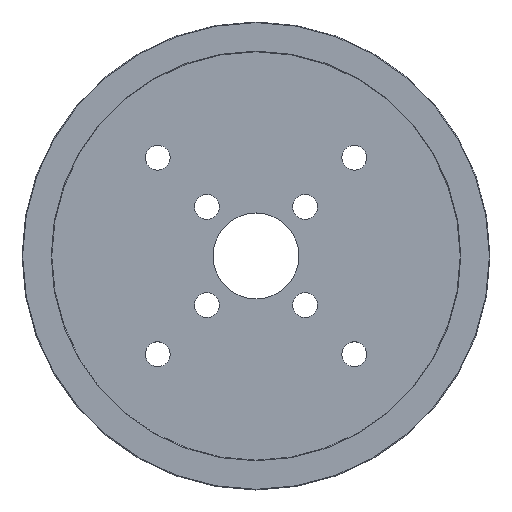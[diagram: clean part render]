
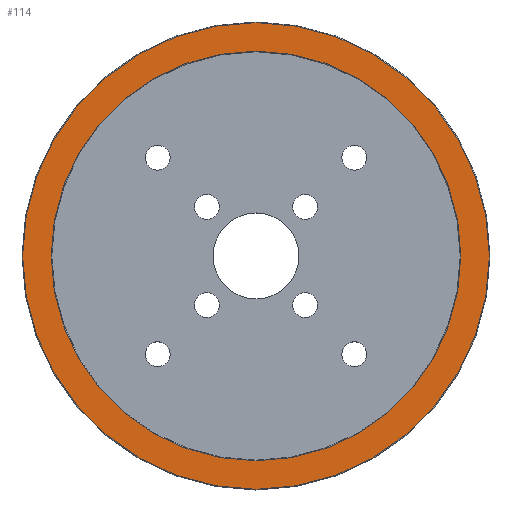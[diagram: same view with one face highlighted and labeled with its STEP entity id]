
A CAD part, top view. The second image highlights one B-rep face of the part: STEP entity #114.
In plain terms, the highlighted planar face has unit normal (0, 0, 1).
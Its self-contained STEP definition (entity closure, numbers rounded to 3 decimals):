
#16 = CARTESIAN_POINT ( 'NONE',  ( 0., 0., 3. ) ) ;
#56 = VERTEX_POINT ( 'NONE', #302 ) ;
#65 = AXIS2_PLACEMENT_3D ( 'NONE', #16, #334, #1363 ) ;
#72 = DIRECTION ( 'NONE',  ( 0., 0., -1. ) ) ;
#114 = ADVANCED_FACE ( 'NONE', ( #1454, #1147 ), #1447, .F. ) ;
#126 = ORIENTED_EDGE ( 'NONE', *, *, #1080, .T. ) ;
#151 = CARTESIAN_POINT ( 'NONE',  ( 0., 0., 3. ) ) ;
#222 = CARTESIAN_POINT ( 'NONE',  ( 0., 0., 3. ) ) ;
#224 = EDGE_CURVE ( 'NONE', #384, #56, #443, .T. ) ;
#244 = CARTESIAN_POINT ( 'NONE',  ( -38., 0., 3. ) ) ;
#278 = CIRCLE ( 'NONE', #906, 38. ) ;
#297 = CIRCLE ( 'NONE', #386, 33.35 ) ;
#302 = CARTESIAN_POINT ( 'NONE',  ( -33.35, 0., 3. ) ) ;
#312 = DIRECTION ( 'NONE',  ( 0., 0., -1. ) ) ;
#327 = ORIENTED_EDGE ( 'NONE', *, *, #224, .T. ) ;
#334 = DIRECTION ( 'NONE',  ( 0., 0., 1. ) ) ;
#371 = DIRECTION ( 'NONE',  ( -1., 0., 0. ) ) ;
#384 = VERTEX_POINT ( 'NONE', #1144 ) ;
#386 = AXIS2_PLACEMENT_3D ( 'NONE', #1039, #1047, #1265 ) ;
#443 = CIRCLE ( 'NONE', #844, 33.35 ) ;
#518 = CARTESIAN_POINT ( 'NONE',  ( 0., 0., 3. ) ) ;
#674 = EDGE_LOOP ( 'NONE', ( #1258, #327 ) ) ;
#756 = DIRECTION ( 'NONE',  ( -1., 0., 0. ) ) ;
#770 = CARTESIAN_POINT ( 'NONE',  ( 38., 0., 3. ) ) ;
#819 = VERTEX_POINT ( 'NONE', #770 ) ;
#830 = CIRCLE ( 'NONE', #65, 38. ) ;
#844 = AXIS2_PLACEMENT_3D ( 'NONE', #222, #312, #1018 ) ;
#906 = AXIS2_PLACEMENT_3D ( 'NONE', #151, #1059, #371 ) ;
#963 = EDGE_CURVE ( 'NONE', #819, #1058, #830, .T. ) ;
#1018 = DIRECTION ( 'NONE',  ( -1., 0., 0. ) ) ;
#1039 = CARTESIAN_POINT ( 'NONE',  ( 0., 0., 3. ) ) ;
#1047 = DIRECTION ( 'NONE',  ( 0., 0., -1. ) ) ;
#1058 = VERTEX_POINT ( 'NONE', #244 ) ;
#1059 = DIRECTION ( 'NONE',  ( 0., 0., 1. ) ) ;
#1080 = EDGE_CURVE ( 'NONE', #1058, #819, #278, .T. ) ;
#1105 = EDGE_LOOP ( 'NONE', ( #126, #1344 ) ) ;
#1136 = AXIS2_PLACEMENT_3D ( 'NONE', #518, #72, #756 ) ;
#1144 = CARTESIAN_POINT ( 'NONE',  ( 33.35, 0., 3. ) ) ;
#1147 = FACE_OUTER_BOUND ( 'NONE', #1105, .T. ) ;
#1258 = ORIENTED_EDGE ( 'NONE', *, *, #1470, .T. ) ;
#1265 = DIRECTION ( 'NONE',  ( -1., 0., 0. ) ) ;
#1344 = ORIENTED_EDGE ( 'NONE', *, *, #963, .T. ) ;
#1363 = DIRECTION ( 'NONE',  ( -1., 0., 0. ) ) ;
#1447 = PLANE ( 'NONE',  #1136 ) ;
#1454 = FACE_BOUND ( 'NONE', #674, .T. ) ;
#1470 = EDGE_CURVE ( 'NONE', #56, #384, #297, .T. ) ;
